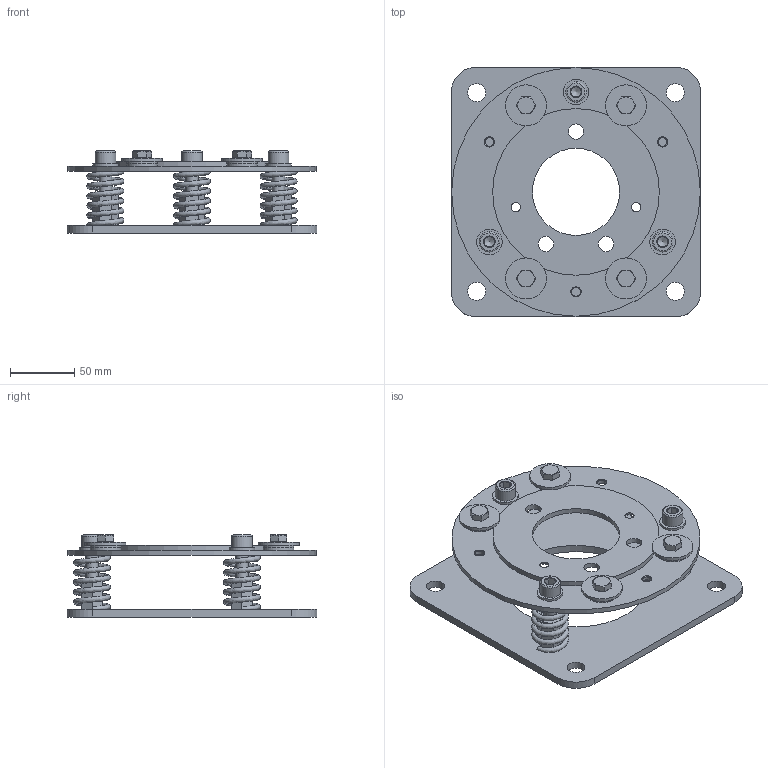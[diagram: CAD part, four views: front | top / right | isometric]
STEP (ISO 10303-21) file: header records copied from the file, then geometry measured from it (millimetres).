
FILE_DESCRIPTION(/* description */ (''),/* implementation_level */ '2;1');
FILE_NAME(/* name */ 'SH-FS-PS_Floor_Suppoprts_fixing_system.stp',/* time_stamp */ '2025-11-14T10:22:45+01:00',/* author */ (''),/* organization */ (''),/* preprocessor_version */ 'ST-DEVELOPER v20',/* originating_system */ 'SIEMENS PLM Software NX2412.4001',/* authorisation */ '');
FILE_SCHEMA (('AP203_CONFIGURATION_CONTROLLED_3D_DESIGN_OF_MECHANICAL_PARTS_AND_ASSEMBLIES_MIM_LF { 1 0 10303 403 2 1 2}'));
Length unit declared in the file: millimetre
Products named in the file (1): AS007804_objects
Bounding box: 195 x 195 x 64 mm (x, y, z)
Volume: 335801.5 mm3; surface area: 178221.4 mm2
Topology: 34 solids, 34 shells, 442 faces, 923 edges, 554 vertices
Faces by surface type: plane 242, cone 113, cylinder 75, torus 9, bspline 3
Full cylindrical faces by diameter (mm): 6.8 x7, 7.2 x2, 8 x4, 8.4 x12, 8.782 x3, 9.732 x3, 10.5 x3, 12 x6, 12.2 x4, 14 x4, 16 x3, 20 x3, 24 x8, 32 x4, 68 x1, 110 x1, 120 x1, 130 x1, 194 x1
Entity records: 14282 total; most frequent: CARTESIAN_POINT 5235, DIRECTION 1788, ORIENTED_EDGE 1542, EDGE_CURVE 771, AXIS2_PLACEMENT_3D 727, EDGE_LOOP 657, VERTEX_POINT 529, ADVANCED_FACE 442
